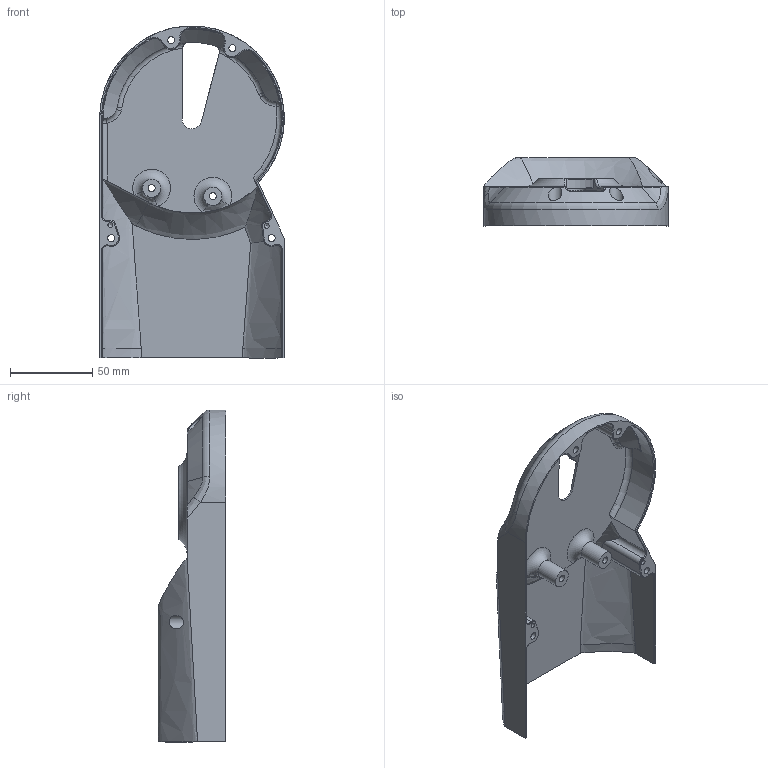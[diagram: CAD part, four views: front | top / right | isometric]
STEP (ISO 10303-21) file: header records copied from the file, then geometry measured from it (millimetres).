
FILE_DESCRIPTION(/* description */ ('STEP AP242 Edition 2','CAx-IF Rec.Pracs.---Representation and Presentation of Product Manufacturing Information (PMI)---4.0---2014-10-13','CAx-IF Rec.Pracs.---3D Tessellated Geometry---0.4---2014-09-14','2;1','CAx-IF Rec.Pracs.---User Defined Attributes---1.5---2016-08-15'),/* implementation_level */ '2;1');
FILE_NAME(/* name */ 'Assy_ForMFG - KD-D-202R',/* time_stamp */ '2026-05-15T19:56:34Z',/* author */ (''),/* organization */ (''),/* preprocessor_version */ 'ST-DEVELOPER v20',/* originating_system */ 'ONSHAPE BY PTC INC, 1.215',/* authorisation */ ' ');
FILE_SCHEMA (('AP242_MANAGED_MODEL_BASED_3D_ENGINEERING_MIM_LF { 1 0 10303 442 3 1 4 }'));
Length unit declared in the file: metre
Products named in the file (1): KD-D-202R
Bounding box: 112 x 41.25 x 201.45 mm (x, y, z)
Volume: 71558.3 mm3; surface area: 69488.3 mm2
Topology: 1 solids, 1 shells, 163 faces, 426 edges, 260 vertices
Faces by surface type: cylinder 52, plane 38, cone 26, bspline 24, torus 19, sphere 4
Full cylindrical faces by diameter (mm): 3 x2, 4.3 x6, 8.25 x6, 11 x2
Entity records: 5980 total; most frequent: CARTESIAN_POINT 2269, ORIENTED_EDGE 780, DIRECTION 743, EDGE_CURVE 390, AXIS2_PLACEMENT_3D 313, VERTEX_POINT 250, FACE_BOUND 198, EDGE_LOOP 196
